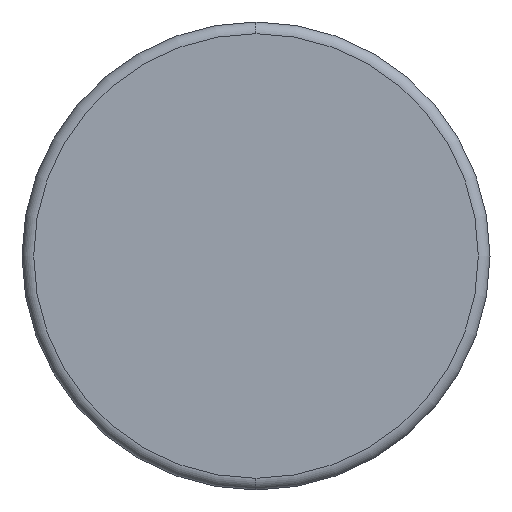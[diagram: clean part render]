
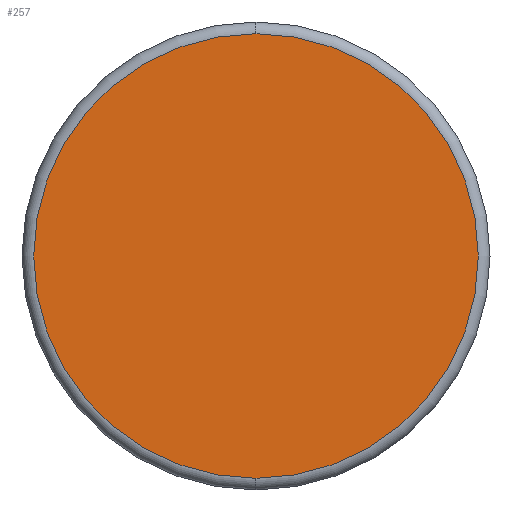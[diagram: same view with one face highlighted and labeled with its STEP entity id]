
A CAD part, left-side view. The second image highlights one B-rep face of the part: STEP entity #257.
In plain terms, the highlighted planar face has unit normal (-1, 0, 0).
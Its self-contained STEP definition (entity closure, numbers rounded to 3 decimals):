
#14 = CARTESIAN_POINT ( 'NONE',  ( 0., 0., 9.5 ) ) ;
#26 = CARTESIAN_POINT ( 'NONE',  ( 0., 0., -9.5 ) ) ;
#59 = DIRECTION ( 'NONE',  ( 1., 0., 0. ) ) ;
#80 = AXIS2_PLACEMENT_3D ( 'NONE', #259, #59, #175 ) ;
#115 = CIRCLE ( 'NONE', #159, 9.5 ) ;
#133 = VERTEX_POINT ( 'NONE', #14 ) ;
#142 = EDGE_CURVE ( 'NONE', #377, #133, #115, .T. ) ;
#159 = AXIS2_PLACEMENT_3D ( 'NONE', #248, #170, #332 ) ;
#170 = DIRECTION ( 'NONE',  ( -1., 0., 0. ) ) ;
#175 = DIRECTION ( 'NONE',  ( 0., 0., -1. ) ) ;
#200 = DIRECTION ( 'NONE',  ( 0., 0., -1. ) ) ;
#211 = CIRCLE ( 'NONE', #246, 9.5 ) ;
#231 = CARTESIAN_POINT ( 'NONE',  ( 0., 0., 0. ) ) ;
#246 = AXIS2_PLACEMENT_3D ( 'NONE', #231, #364, #200 ) ;
#248 = CARTESIAN_POINT ( 'NONE',  ( 0., 0., 0. ) ) ;
#257 = ADVANCED_FACE ( 'NONE', ( #367 ), #258, .F. ) ;
#258 = PLANE ( 'NONE',  #80 ) ;
#259 = CARTESIAN_POINT ( 'NONE',  ( 0., 0., 0. ) ) ;
#302 = EDGE_CURVE ( 'NONE', #133, #377, #211, .T. ) ;
#332 = DIRECTION ( 'NONE',  ( 0., 0., -1. ) ) ;
#364 = DIRECTION ( 'NONE',  ( -1., 0., 0. ) ) ;
#367 = FACE_OUTER_BOUND ( 'NONE', #369, .T. ) ;
#369 = EDGE_LOOP ( 'NONE', ( #390, #384 ) ) ;
#377 = VERTEX_POINT ( 'NONE', #26 ) ;
#384 = ORIENTED_EDGE ( 'NONE', *, *, #302, .T. ) ;
#390 = ORIENTED_EDGE ( 'NONE', *, *, #142, .T. ) ;
